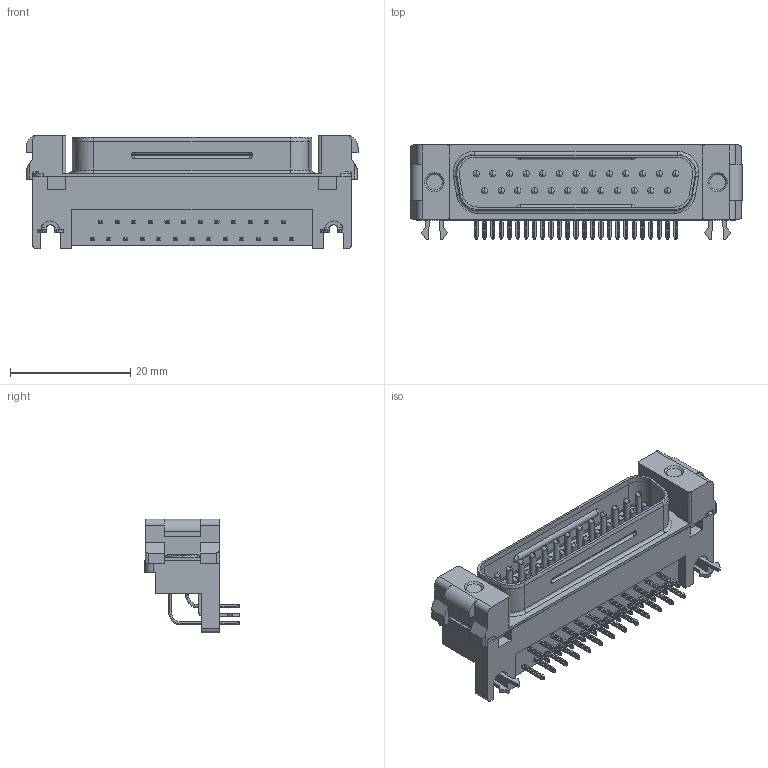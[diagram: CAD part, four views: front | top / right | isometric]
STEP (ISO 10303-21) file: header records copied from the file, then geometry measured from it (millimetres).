
FILE_DESCRIPTION (( 'STEP AP203' ), '1' );
FILE_NAME ('17LE-23250-27(D2AC)-FA.STEP', '2022-02-07T10:19:03', ( '' ), ( '' ), 'SwSTEP 2.0', 'SolidWorks 2018', '' );
FILE_SCHEMA (( 'CONFIG_CONTROL_DESIGN' ));
Products named in the file (1): 17LE-23250-27(D2AC)-FA
Bounding box: 55.14 x 15.7 x 18.9 mm (x, y, z)
Volume: 5249.9 mm3; surface area: 6390 mm2
Topology: 1 solids, 3 shells, 1577 faces, 4390 edges, 2801 vertices
Faces by surface type: plane 742, cylinder 619, torus 144, sphere 62, cone 8, bspline 2
Entity records: 51141 total; most frequent: CARTESIAN_POINT 9987, DIRECTION 8784, ORIENTED_EDGE 8648, EDGE_CURVE 4324, AXIS2_PLACEMENT_3D 3067, VERTEX_POINT 2797, LINE 2650, VECTOR 2650
